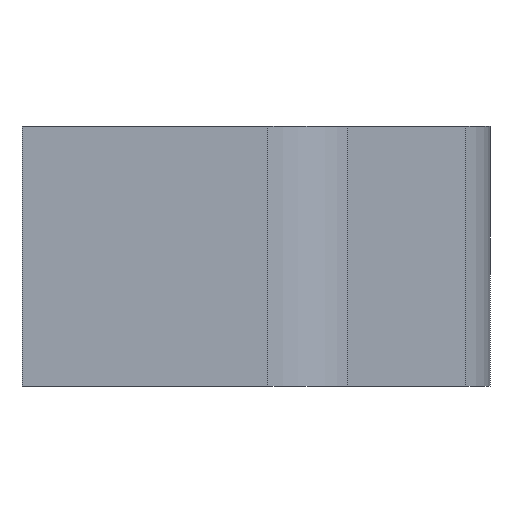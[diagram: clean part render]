
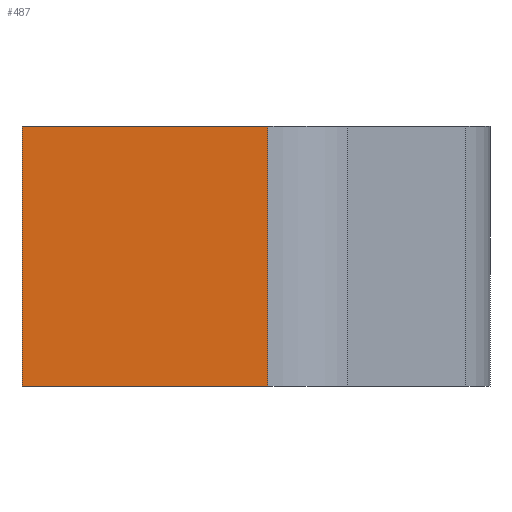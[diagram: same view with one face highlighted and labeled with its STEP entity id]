
A CAD part, left-side view. The second image highlights one B-rep face of the part: STEP entity #487.
In plain terms, the highlighted planar face has unit normal (-1, 0, 0).
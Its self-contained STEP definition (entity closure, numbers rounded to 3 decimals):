
#33=LINE('',#742,#87);
#42=LINE('',#764,#96);
#43=LINE('',#768,#97);
#44=LINE('',#770,#98);
#87=VECTOR('',#592,1000.);
#96=VECTOR('',#607,1000.);
#97=VECTOR('',#612,1000.);
#98=VECTOR('',#613,1000.);
#160=ORIENTED_EDGE('',*,*,#298,.T.);
#161=ORIENTED_EDGE('',*,*,#299,.T.);
#162=ORIENTED_EDGE('',*,*,#296,.F.);
#163=ORIENTED_EDGE('',*,*,#285,.T.);
#285=EDGE_CURVE('',#355,#354,#33,.T.);
#296=EDGE_CURVE('',#355,#365,#42,.T.);
#298=EDGE_CURVE('',#354,#366,#43,.T.);
#299=EDGE_CURVE('',#366,#365,#44,.F.);
#354=VERTEX_POINT('',#741);
#355=VERTEX_POINT('',#743);
#365=VERTEX_POINT('',#765);
#366=VERTEX_POINT('',#769);
#407=EDGE_LOOP('',(#160,#161,#162,#163));
#439=FACE_BOUND('',#407,.T.);
#469=PLANE('',#533);
#487=ADVANCED_FACE('',(#439),#469,.F.);
#533=AXIS2_PLACEMENT_3D('',#767,#610,#611);
#592=DIRECTION('',(0.,0.,-1.));
#607=DIRECTION('',(0.,-1.,0.));
#610=DIRECTION('',(1.,0.,0.));
#611=DIRECTION('',(0.,1.,0.));
#612=DIRECTION('',(0.,-1.,0.));
#613=DIRECTION('',(0.,0.,-1.));
#741=CARTESIAN_POINT('',(0.,13.5,0.));
#742=CARTESIAN_POINT('',(0.,13.5,7.5));
#743=CARTESIAN_POINT('',(0.,13.5,7.5));
#764=CARTESIAN_POINT('',(0.,13.5,7.5));
#765=CARTESIAN_POINT('',(0.,6.405,7.5));
#767=CARTESIAN_POINT('',(0.,13.5,7.5));
#768=CARTESIAN_POINT('',(0.,13.5,0.));
#769=CARTESIAN_POINT('',(0.,6.405,0.));
#770=CARTESIAN_POINT('',(0.,6.405,7.5));
